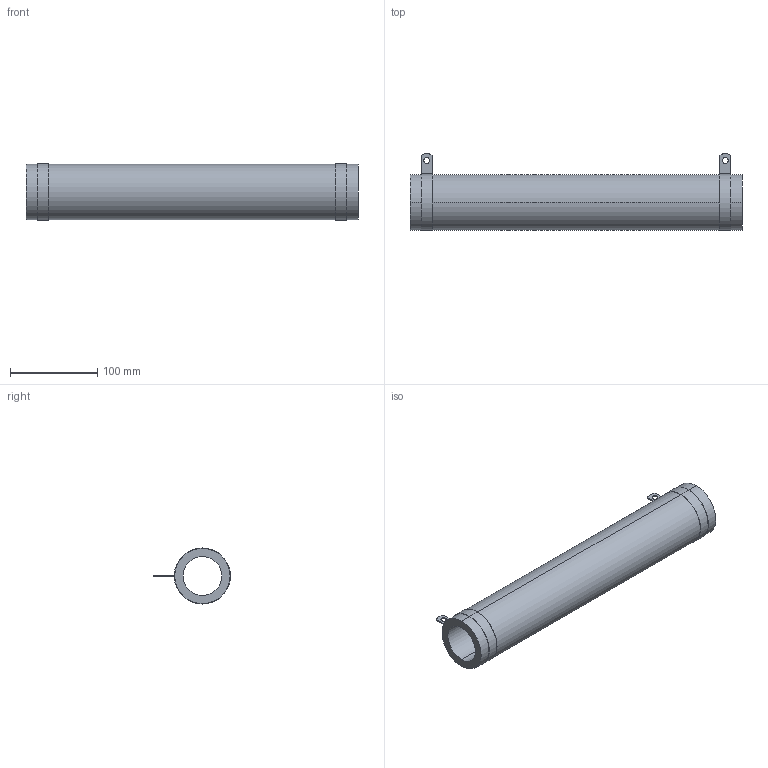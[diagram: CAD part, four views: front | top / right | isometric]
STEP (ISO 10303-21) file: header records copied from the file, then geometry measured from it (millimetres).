
FILE_DESCRIPTION (( 'STEP AP203' ), '1' );
FILE_NAME ('RBSF1000xxxxxKGB00.STEP', '2014-04-04T19:10:20', ( '' ), ( '' ), 'SwSTEP 2.0', 'SolidWorks 2012', '' );
FILE_SCHEMA (( 'CONFIG_CONTROL_DESIGN' ));
Length unit declared in the file: millimetre
Products named in the file (3): DAL013-08_DAL013-143; DAL15-182-XXX_DAL15-182-340; RBSF1000xxxxxKGB00
Assembly tree (3 placements, depth 2):
  RBSF1000xxxxxKGB00
    DAL013-08_DAL013-143
    DAL15-182-XXX_DAL15-182-340  x2
Bounding box: 381 x 88.22 x 64.4 mm (x, y, z)
Volume: 618162.1 mm3; surface area: 145187.4 mm2
Topology: 3 solids, 3 shells, 76 faces, 162 edges, 92 vertices
Faces by surface type: plane 46, cylinder 30
Entity records: 1432 total; most frequent: DIRECTION 215, CARTESIAN_POINT 184, ORIENTED_EDGE 174, EDGE_CURVE 87, AXIS2_PLACEMENT_3D 81, LINE 53, VECTOR 53, VERTEX_POINT 50
